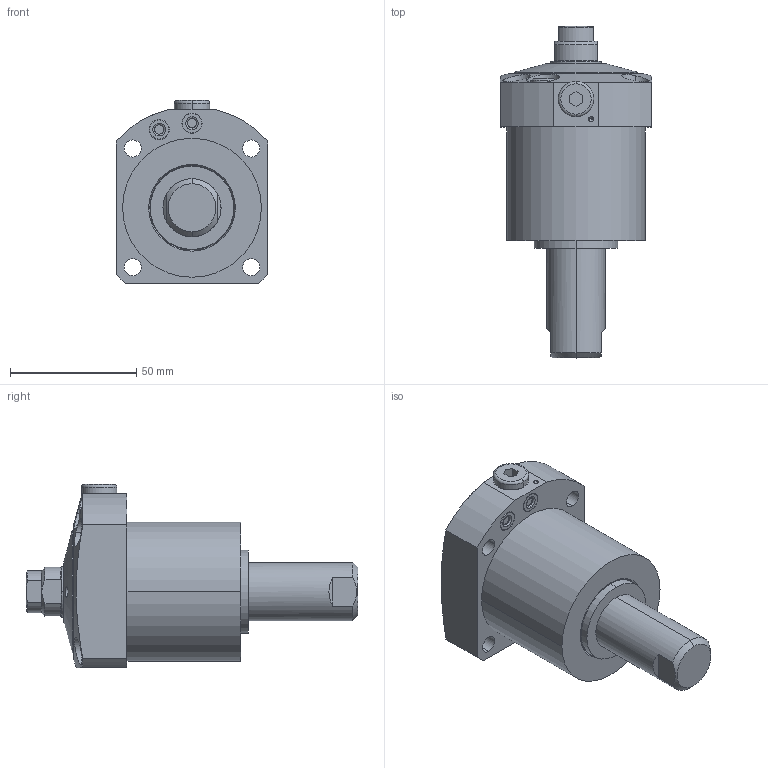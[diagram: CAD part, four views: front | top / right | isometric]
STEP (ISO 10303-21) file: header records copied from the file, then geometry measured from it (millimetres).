
FILE_DESCRIPTION(/* description */ (''),/* implementation_level */ '2;1');
FILE_NAME(/* name */ 'KFSC55-Q.stp',/* time_stamp */ '2023-01-10T13:10:44+08:00',/* author */ (''),/* organization */ (''),/* preprocessor_version */ 'ST-DEVELOPER v16.7',/* originating_system */ 'SIEMENS PLM Software NX 12.0',/* authorisation */ '');
FILE_SCHEMA (('AP203_CONFIGURATION_CONTROLLED_3D_DESIGN_OF_MECHANICAL_PARTS_AND_ASSEMBLIES_MIM_LF { 1 0 10303 403 2 1 2}'));
Length unit declared in the file: millimetre
Products named in the file (8): KFSC55-Q-2; KFSC55-Q-3; KFSC55-Q-4; KFSC55-Q-1; KFSC55-Q-7; KFSC55-Q-5; KFSC55-Q-6; LC0552-C-Q_step
Assembly tree (8 placements, depth 2):
  LC0552-C-Q_step
    KFSC55-Q-6  x2
    KFSC55-Q-5
    KFSC55-Q-7
    KFSC55-Q-1
    KFSC55-Q-4
    KFSC55-Q-3
    KFSC55-Q-2
Bounding box: 60 x 131.5 x 72.5 mm (x, y, z)
Volume: 209026 mm3; surface area: 34418 mm2
Topology: 8 solids, 8 shells, 222 faces, 489 edges, 302 vertices
Faces by surface type: cylinder 85, plane 65, cone 42, torus 28, sphere 2
Entity records: 6958 total; most frequent: CARTESIAN_POINT 1235, DIRECTION 1098, ORIENTED_EDGE 918, EDGE_CURVE 459, AXIS2_PLACEMENT_3D 457, VERTEX_POINT 288, EDGE_LOOP 247, CIRCLE 238
